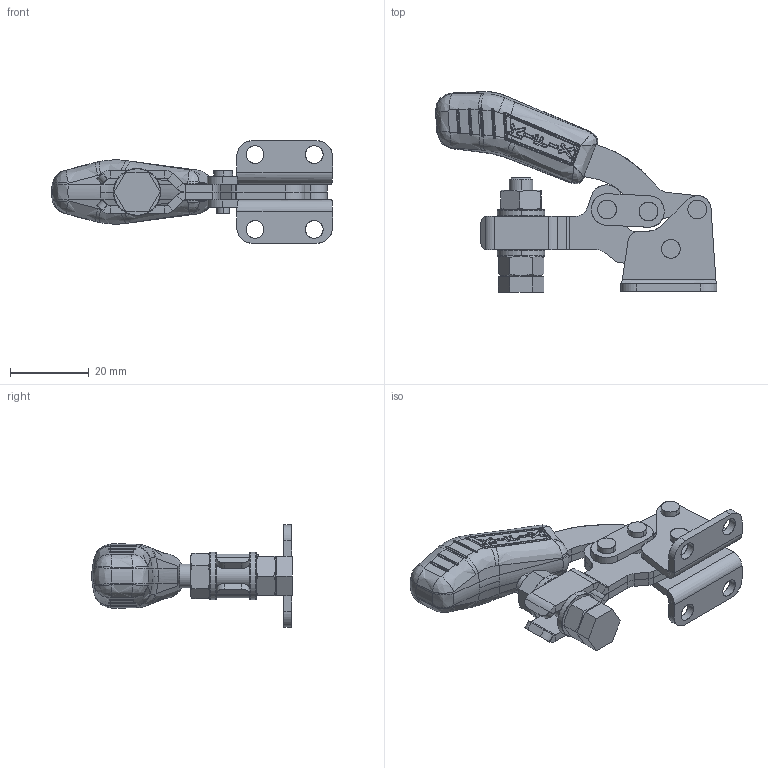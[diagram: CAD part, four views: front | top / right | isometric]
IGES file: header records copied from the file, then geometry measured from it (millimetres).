
Start section: SolidWorks IGES file using analytic representation for surfaces
Global section: file name: C:\Projetos\Grampos\KF-102\KF-102 D\KF-102 D.IGS; native system: SolidWorks 2013; preprocessor: SolidWorks 2013; author: Ricardo; date: 140815.153209; units: millimetre
Bounding box: 71.29 x 50.88 x 26 mm (x, y, z)
Surface area: 14595.2 mm2 (no closed solid volume)
Topology: 0 solids, 0 shells, 1037 faces, 11245 edges, 11222 vertices
Faces by surface type: bspline 565, revolution 472
